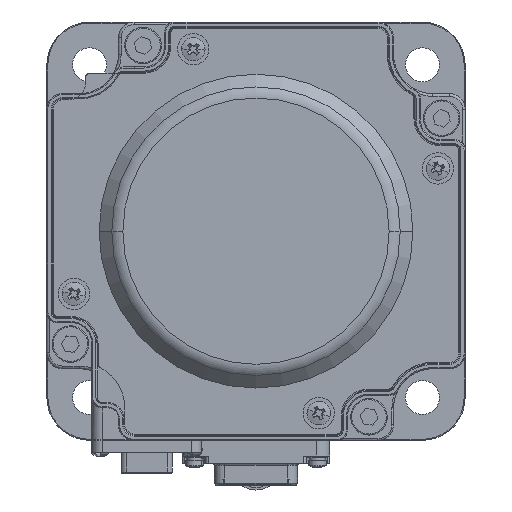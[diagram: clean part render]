
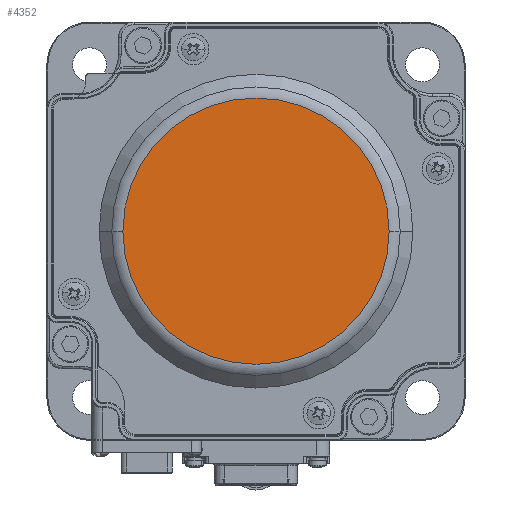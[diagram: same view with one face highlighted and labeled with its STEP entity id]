
A CAD part, left-side view. The second image highlights one B-rep face of the part: STEP entity #4352.
In plain terms, the highlighted planar face has unit normal (-1, 0, 0).
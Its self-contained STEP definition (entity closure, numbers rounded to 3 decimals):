
#969 = CARTESIAN_POINT ( 'NONE',  ( -256.669, -25.457, 261.219 ) ) ;
#1120 = DIRECTION ( 'NONE',  ( 0., 1., 0. ) ) ;
#1836 = AXIS2_PLACEMENT_3D ( 'NONE', #12038, #49221, #40512 ) ;
#3776 = AXIS2_PLACEMENT_3D ( 'NONE', #13100, #38529, #1120 ) ;
#4007 = AXIS2_PLACEMENT_3D ( 'NONE', #43082, #17626, #34264 ) ;
#4352 = ADVANCED_FACE ( 'NONE', ( #50189 ), #46901, .F. ) ;
#12038 = CARTESIAN_POINT ( 'NONE',  ( -256.669, 0., 261.219 ) ) ;
#13100 = CARTESIAN_POINT ( 'NONE',  ( -256.669, 0., 261.219 ) ) ;
#17626 = DIRECTION ( 'NONE',  ( 1., 0., 0. ) ) ;
#21176 = CIRCLE ( 'NONE', #3776, 25.457 ) ;
#22822 = VERTEX_POINT ( 'NONE', #969 ) ;
#27002 = EDGE_CURVE ( 'NONE', #22822, #44113, #21176, .T. ) ;
#31630 = EDGE_CURVE ( 'NONE', #44113, #22822, #50677, .T. ) ;
#32128 = CARTESIAN_POINT ( 'NONE',  ( -256.669, 25.457, 261.219 ) ) ;
#34264 = DIRECTION ( 'NONE',  ( 0., 1., 0. ) ) ;
#36756 = EDGE_LOOP ( 'NONE', ( #52585, #40778 ) ) ;
#38529 = DIRECTION ( 'NONE',  ( -1., 0., 0. ) ) ;
#40512 = DIRECTION ( 'NONE',  ( 0., 1., 0. ) ) ;
#40778 = ORIENTED_EDGE ( 'NONE', *, *, #27002, .T. ) ;
#43082 = CARTESIAN_POINT ( 'NONE',  ( -256.669, 0., 261.219 ) ) ;
#44113 = VERTEX_POINT ( 'NONE', #32128 ) ;
#46901 = PLANE ( 'NONE',  #4007 ) ;
#49221 = DIRECTION ( 'NONE',  ( -1., 0., 0. ) ) ;
#50189 = FACE_OUTER_BOUND ( 'NONE', #36756, .T. ) ;
#50677 = CIRCLE ( 'NONE', #1836, 25.457 ) ;
#52585 = ORIENTED_EDGE ( 'NONE', *, *, #31630, .T. ) ;
